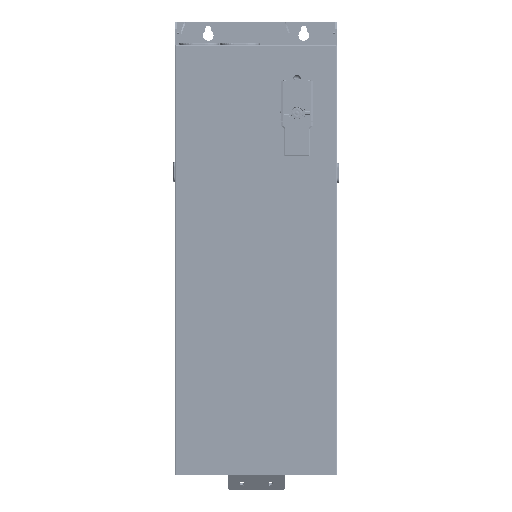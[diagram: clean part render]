
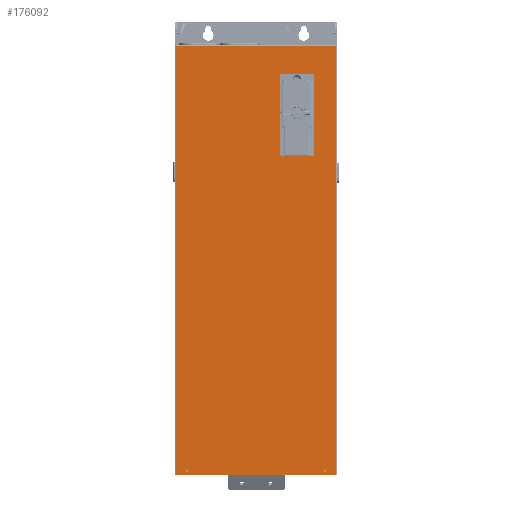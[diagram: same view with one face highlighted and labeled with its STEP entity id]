
A CAD part, front view. The second image highlights one B-rep face of the part: STEP entity #176092.
In plain terms, the highlighted planar face has unit normal (0, -1, 0) as drawn and (0, 1, 0) by its records, which use the part's own axes.
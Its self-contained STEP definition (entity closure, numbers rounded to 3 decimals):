
#175383=DIRECTION('',(-1.,0.,0.));
#175384=VECTOR('',#175383,336.6);
#175385=CARTESIAN_POINT('',(168.3,0.,451.));
#175386=LINE('',#175385,#175384);
#175387=DIRECTION('',(0.,0.,-1.));
#175388=VECTOR('',#175387,168.5);
#175389=CARTESIAN_POINT('',(121.,0.,-220.5));
#175390=LINE('',#175389,#175388);
#175391=CARTESIAN_POINT('',(119.5,0.,-389.));
#175392=DIRECTION('',(0.,1.,0.));
#175393=DIRECTION('',(1.,0.,0.));
#175394=AXIS2_PLACEMENT_3D('',#175391,#175392,#175393);
#175396=DIRECTION('',(-1.,0.,0.));
#175397=VECTOR('',#175396,67.);
#175398=CARTESIAN_POINT('',(119.5,0.,-390.5));
#175399=LINE('',#175398,#175397);
#175400=CARTESIAN_POINT('',(52.5,0.,-389.));
#175401=DIRECTION('',(0.,1.,0.));
#175402=DIRECTION('',(0.,0.,-1.));
#175403=AXIS2_PLACEMENT_3D('',#175400,#175401,#175402);
#175405=DIRECTION('',(0.,0.,1.));
#175406=VECTOR('',#175405,168.5);
#175407=CARTESIAN_POINT('',(51.,0.,-389.));
#175408=LINE('',#175407,#175406);
#175409=CARTESIAN_POINT('',(52.5,0.,-220.5));
#175410=DIRECTION('',(0.,1.,0.));
#175411=DIRECTION('',(-1.,0.,0.));
#175412=AXIS2_PLACEMENT_3D('',#175409,#175410,#175411);
#175414=DIRECTION('',(1.,0.,0.));
#175415=VECTOR('',#175414,67.);
#175416=CARTESIAN_POINT('',(52.5,0.,-219.));
#175417=LINE('',#175416,#175415);
#175418=CARTESIAN_POINT('',(119.5,0.,-220.5));
#175419=DIRECTION('',(0.,1.,0.));
#175420=DIRECTION('',(0.,0.,1.));
#175421=AXIS2_PLACEMENT_3D('',#175418,#175419,#175420);
#175423=CARTESIAN_POINT('',(-145.,0.,441.));
#175424=DIRECTION('',(0.,1.,0.));
#175425=DIRECTION('',(-1.,0.,0.));
#175426=AXIS2_PLACEMENT_3D('',#175423,#175424,#175425);
#175428=CARTESIAN_POINT('',(-145.,0.,441.));
#175429=DIRECTION('',(0.,1.,0.));
#175430=DIRECTION('',(1.,0.,0.));
#175431=AXIS2_PLACEMENT_3D('',#175428,#175429,#175430);
#175433=CARTESIAN_POINT('',(145.,0.,441.));
#175434=DIRECTION('',(0.,1.,0.));
#175435=DIRECTION('',(-1.,0.,0.));
#175436=AXIS2_PLACEMENT_3D('',#175433,#175434,#175435);
#175438=CARTESIAN_POINT('',(145.,0.,441.));
#175439=DIRECTION('',(0.,1.,0.));
#175440=DIRECTION('',(1.,0.,0.));
#175441=AXIS2_PLACEMENT_3D('',#175438,#175439,#175440);
#175451=DIRECTION('',(0.,0.,1.));
#175452=VECTOR('',#175451,900.3);
#175453=CARTESIAN_POINT('',(-168.3,0.,-449.3));
#175454=LINE('',#175453,#175452);
#175495=DIRECTION('',(0.,0.,-1.));
#175496=VECTOR('',#175495,900.3);
#175497=CARTESIAN_POINT('',(168.3,0.,451.));
#175498=LINE('',#175497,#175496);
#175576=DIRECTION('',(-1.,0.,0.));
#175577=VECTOR('',#175576,336.6);
#175578=CARTESIAN_POINT('',(168.3,0.,-449.3));
#175579=LINE('',#175578,#175577);
#175903=CARTESIAN_POINT('',(-168.3,0.,-449.3));
#175904=CARTESIAN_POINT('',(-168.3,0.,451.));
#175905=VERTEX_POINT('',#175903);
#175906=VERTEX_POINT('',#175904);
#175907=CARTESIAN_POINT('',(168.3,0.,-449.3));
#175908=VERTEX_POINT('',#175907);
#175909=CARTESIAN_POINT('',(168.3,0.,451.));
#175910=VERTEX_POINT('',#175909);
#175911=CARTESIAN_POINT('',(121.,0.,-220.5));
#175912=CARTESIAN_POINT('',(121.,0.,-389.));
#175913=VERTEX_POINT('',#175911);
#175914=VERTEX_POINT('',#175912);
#175915=CARTESIAN_POINT('',(119.5,0.,-390.5));
#175916=VERTEX_POINT('',#175915);
#175917=CARTESIAN_POINT('',(52.5,0.,-390.5));
#175918=VERTEX_POINT('',#175917);
#175919=CARTESIAN_POINT('',(51.,0.,-389.));
#175920=VERTEX_POINT('',#175919);
#175921=CARTESIAN_POINT('',(51.,0.,-220.5));
#175922=VERTEX_POINT('',#175921);
#175923=CARTESIAN_POINT('',(52.5,0.,-219.));
#175924=VERTEX_POINT('',#175923);
#175925=CARTESIAN_POINT('',(119.5,0.,-219.));
#175926=VERTEX_POINT('',#175925);
#175927=CARTESIAN_POINT('',(-147.5,0.,441.));
#175928=CARTESIAN_POINT('',(-142.5,0.,441.));
#175929=VERTEX_POINT('',#175927);
#175930=VERTEX_POINT('',#175928);
#175931=CARTESIAN_POINT('',(142.5,0.,441.));
#175932=CARTESIAN_POINT('',(147.5,0.,441.));
#175933=VERTEX_POINT('',#175931);
#175934=VERTEX_POINT('',#175932);
#176047=CARTESIAN_POINT('',(0.,0.,0.));
#176048=DIRECTION('',(0.,1.,0.));
#176049=DIRECTION('',(1.,0.,0.));
#176050=AXIS2_PLACEMENT_3D('',#176047,#176048,#176049);
#176051=PLANE('',#176050);
#176053=ORIENTED_EDGE('',*,*,#176052,.F.);
#176055=ORIENTED_EDGE('',*,*,#176054,.F.);
#176057=ORIENTED_EDGE('',*,*,#176056,.F.);
#176059=ORIENTED_EDGE('',*,*,#176058,.T.);
#176060=EDGE_LOOP('',(#176053,#176055,#176057,#176059));
#176061=FACE_OUTER_BOUND('',#176060,.F.);
#176063=ORIENTED_EDGE('',*,*,#176062,.T.);
#176065=ORIENTED_EDGE('',*,*,#176064,.T.);
#176067=ORIENTED_EDGE('',*,*,#176066,.T.);
#176069=ORIENTED_EDGE('',*,*,#176068,.T.);
#176071=ORIENTED_EDGE('',*,*,#176070,.T.);
#176073=ORIENTED_EDGE('',*,*,#176072,.T.);
#176075=ORIENTED_EDGE('',*,*,#176074,.T.);
#176077=ORIENTED_EDGE('',*,*,#176076,.T.);
#176078=EDGE_LOOP('',(#176063,#176065,#176067,#176069,#176071,#176073,#176075,
#176077));
#176079=FACE_BOUND('',#176078,.F.);
#176081=ORIENTED_EDGE('',*,*,#176080,.T.);
#176083=ORIENTED_EDGE('',*,*,#176082,.T.);
#176084=EDGE_LOOP('',(#176081,#176083));
#176085=FACE_BOUND('',#176084,.F.);
#176087=ORIENTED_EDGE('',*,*,#176086,.T.);
#176089=ORIENTED_EDGE('',*,*,#176088,.T.);
#176090=EDGE_LOOP('',(#176087,#176089));
#176091=FACE_BOUND('',#176090,.F.);
#175395=CIRCLE('',#175394,1.5);
#175404=CIRCLE('',#175403,1.5);
#175413=CIRCLE('',#175412,1.5);
#175422=CIRCLE('',#175421,1.5);
#175427=CIRCLE('',#175426,2.5);
#175432=CIRCLE('',#175431,2.5);
#175437=CIRCLE('',#175436,2.5);
#175442=CIRCLE('',#175441,2.5);
#176052=EDGE_CURVE('',#175905,#175906,#175454,.T.);
#176054=EDGE_CURVE('',#175908,#175905,#175579,.T.);
#176056=EDGE_CURVE('',#175910,#175908,#175498,.T.);
#176058=EDGE_CURVE('',#175910,#175906,#175386,.T.);
#176062=EDGE_CURVE('',#175913,#175914,#175390,.T.);
#176064=EDGE_CURVE('',#175914,#175916,#175395,.T.);
#176066=EDGE_CURVE('',#175916,#175918,#175399,.T.);
#176068=EDGE_CURVE('',#175918,#175920,#175404,.T.);
#176070=EDGE_CURVE('',#175920,#175922,#175408,.T.);
#176072=EDGE_CURVE('',#175922,#175924,#175413,.T.);
#176074=EDGE_CURVE('',#175924,#175926,#175417,.T.);
#176076=EDGE_CURVE('',#175926,#175913,#175422,.T.);
#176080=EDGE_CURVE('',#175929,#175930,#175427,.T.);
#176082=EDGE_CURVE('',#175930,#175929,#175432,.T.);
#176086=EDGE_CURVE('',#175933,#175934,#175437,.T.);
#176088=EDGE_CURVE('',#175934,#175933,#175442,.T.);
#176092=ADVANCED_FACE('',(#176061,#176079,#176085,#176091),#176051,.T.);
